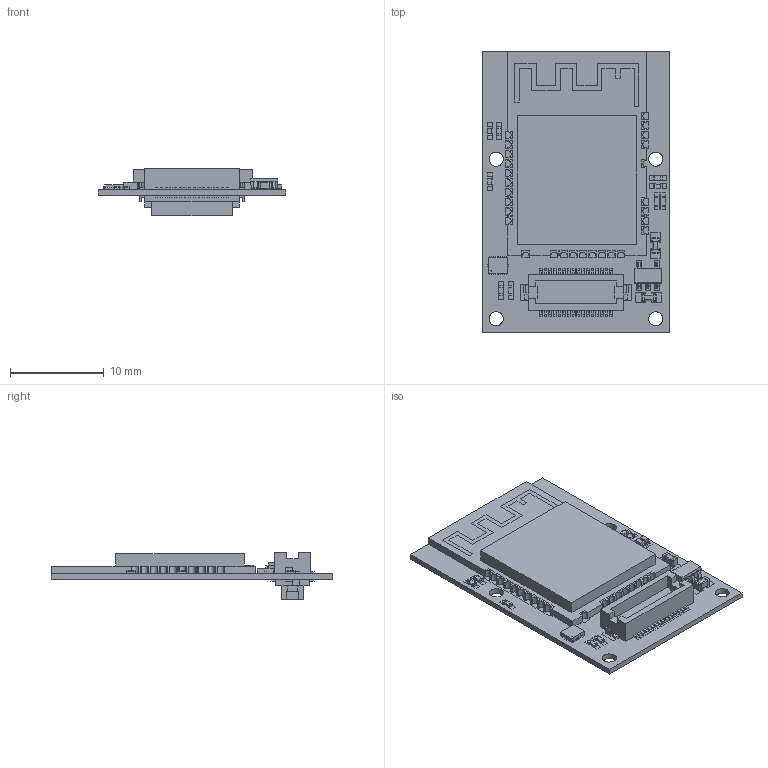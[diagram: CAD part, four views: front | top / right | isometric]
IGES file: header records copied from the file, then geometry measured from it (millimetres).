
Global section: file name: Filename.iges; native system: Open CASCADE 7.4; preprocessor: Open CASCADE IGES processor 7.4; date: 20200709.151731; units: millimetre
Bounding box: 20 x 30 x 5.1 mm (x, y, z)
Surface area: 4909.1 mm2 (no closed solid volume)
Topology: 0 solids, 0 shells, 2796 faces, 14502 edges, 16217 vertices
Faces by surface type: plane 2576, revolution 220
